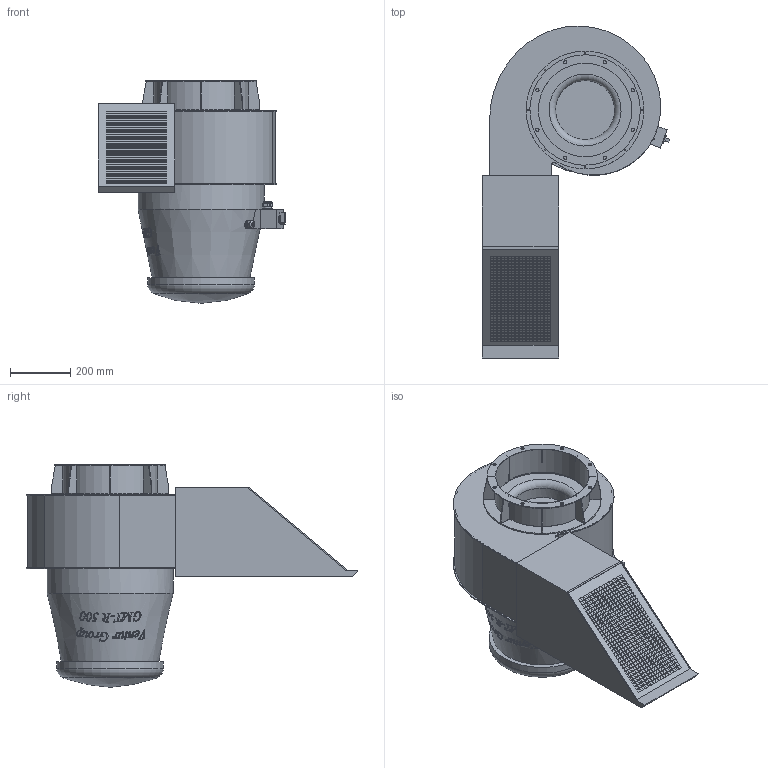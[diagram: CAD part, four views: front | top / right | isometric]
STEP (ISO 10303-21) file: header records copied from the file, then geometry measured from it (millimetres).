
FILE_DESCRIPTION(/* description */ (''),/* implementation_level */ '2;1');
FILE_NAME(/* name */ 'E:\Mariusz\Modele uproszczone\GMT-R\GMT-R_500 43552295\GMT-R_500 43552295\GMT-R_500 43552295.stp',/* time_stamp */ '2018-06-22T09:49:53+02:00',/* author */ ('M.Janczarek'),/* organization */ (''),/* preprocessor_version */ 'ST-DEVELOPER v16.5',/* originating_system */ 'Autodesk Inventor 2017',/* authorisation */ '');
FILE_SCHEMA (('AUTOMOTIVE_DESIGN { 1 0 10303 214 3 1 1 }'));
Length unit declared in the file: millimetre
Products named in the file (1): GMT-R_500 43552295
Bounding box: 624.59 x 1105.76 x 741.48 mm (x, y, z)
Volume: 128742777.9 mm3; surface area: 2318334.1 mm2
Topology: 1 solids, 1 shells, 3463 faces, 8607 edges, 5733 vertices
Faces by surface type: plane 2895, bspline 458, cylinder 64, cone 42, torus 3, sphere 1
Full cylindrical faces by diameter (mm): 5 x1, 11 x8, 11.5 x2, 13.5 x2, 18 x2, 22.3 x1, 25 x1, 28 x1, 197 x1, 311 x1, 315 x2, 355 x1, 368 x1, 392 x1, 420 x1
Entity records: 111125 total; most frequent: CARTESIAN_POINT 28613, ORIENTED_EDGE 17130, DIRECTION 14070, EDGE_CURVE 8565, LINE 7440, VECTOR 7440, VERTEX_POINT 5724, EDGE_LOOP 4115
